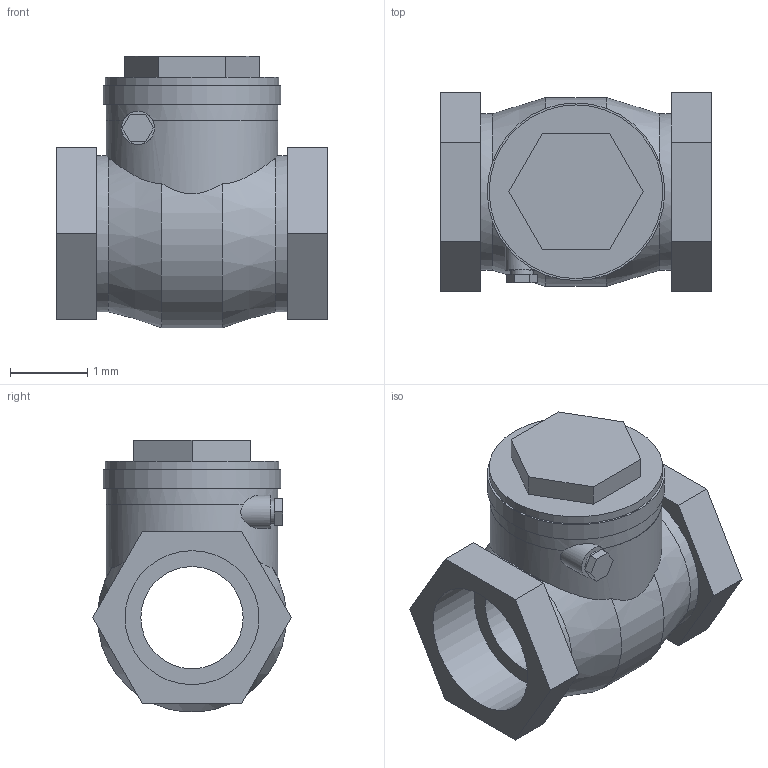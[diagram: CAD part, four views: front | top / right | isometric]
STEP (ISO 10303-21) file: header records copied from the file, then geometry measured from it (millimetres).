
FILE_DESCRIPTION(('Open CASCADE Model'),'2;1');
FILE_NAME('Open CASCADE Shape Model','2022-05-04T07:29:56',('Author'),( 'Open CASCADE'),'Open CASCADE STEP processor 7.3','Open CASCADE 7.3' ,'Unknown');
FILE_SCHEMA(('AUTOMOTIVE_DESIGN { 1 0 10303 214 1 1 1 1 }'));
Length unit declared in the file: millimetre
Products named in the file (1): Open CASCADE STEP translator 7.3 1
Bounding box: 3.51 x 2.58 x 3.52 mm (x, y, z)
Volume: 12.8 mm3; surface area: 73.4 mm2
Topology: 1 solids, 3 shells, 66 faces, 154 edges, 103 vertices
Faces by surface type: plane 44, cylinder 18, cone 4
Full cylindrical faces by diameter (mm): 0.3 x1, 0.43 x1, 1.325 x1, 1.735 x2, 2.025 x2, 2.223 x1, 2.225 x1, 2.25 x1, 2.3 x1
Entity records: 5071 total; most frequent: CARTESIAN_POINT 1979, DIRECTION 554, LINE 328, VECTOR 328, ORIENTED_EDGE 308, PCURVE 308, DEFINITIONAL_REPRESENTATION 308, EDGE_CURVE 154
